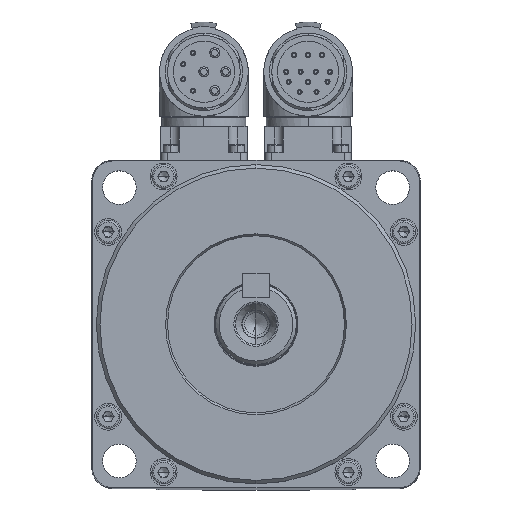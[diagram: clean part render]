
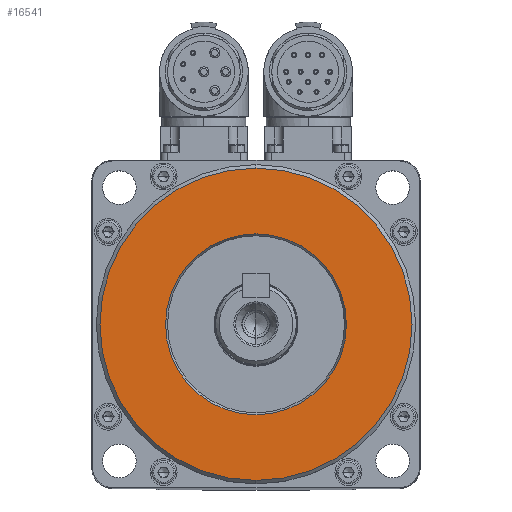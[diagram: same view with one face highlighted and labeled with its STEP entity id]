
A CAD part, top view. The second image highlights one B-rep face of the part: STEP entity #16541.
In plain terms, the highlighted planar face has unit normal (0, 0, 1).
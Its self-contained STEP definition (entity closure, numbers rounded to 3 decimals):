
#839 = CARTESIAN_POINT ( 'NONE',  ( 0., 46.433, 75.864 ) ) ;
#1338 = VERTEX_POINT ( 'NONE', #22055 ) ;
#4292 = DIRECTION ( 'NONE',  ( 0., 0., 1. ) ) ;
#6404 = ORIENTED_EDGE ( 'NONE', *, *, #47784, .T. ) ;
#11301 = CARTESIAN_POINT ( 'NONE',  ( 0., 0., 75.864 ) ) ;
#11336 = CIRCLE ( 'NONE', #54585, 46.433 ) ;
#12138 = EDGE_LOOP ( 'NONE', ( #20036, #35219 ) ) ;
#14655 = CARTESIAN_POINT ( 'NONE',  ( 0., 0., 75.864 ) ) ;
#16180 = CARTESIAN_POINT ( 'NONE',  ( 0., 26.908, 75.864 ) ) ;
#16541 = ADVANCED_FACE ( 'NONE', ( #50809, #28164 ), #23134, .F. ) ;
#19092 = VERTEX_POINT ( 'NONE', #61255 ) ;
#20036 = ORIENTED_EDGE ( 'NONE', *, *, #35072, .T. ) ;
#22055 = CARTESIAN_POINT ( 'NONE',  ( 0., -46.433, 75.864 ) ) ;
#22803 = DIRECTION ( 'NONE',  ( 0., 1., 0. ) ) ;
#23134 = PLANE ( 'NONE',  #38397 ) ;
#26136 = CIRCLE ( 'NONE', #60246, 26.908 ) ;
#28164 = FACE_BOUND ( 'NONE', #12138, .T. ) ;
#28202 = DIRECTION ( 'NONE',  ( 0., 1., 0. ) ) ;
#28419 = DIRECTION ( 'NONE',  ( 0., 0., -1. ) ) ;
#29886 = EDGE_CURVE ( 'NONE', #47277, #19092, #56412, .T. ) ;
#31479 = DIRECTION ( 'NONE',  ( 0., 1., 0. ) ) ;
#32487 = DIRECTION ( 'NONE',  ( 0., 0., 1. ) ) ;
#33291 = DIRECTION ( 'NONE',  ( 0., 1., 0. ) ) ;
#35072 = EDGE_CURVE ( 'NONE', #19092, #47277, #26136, .T. ) ;
#35219 = ORIENTED_EDGE ( 'NONE', *, *, #29886, .T. ) ;
#38397 = AXIS2_PLACEMENT_3D ( 'NONE', #48255, #28419, #28202 ) ;
#42340 = VERTEX_POINT ( 'NONE', #839 ) ;
#45259 = AXIS2_PLACEMENT_3D ( 'NONE', #62288, #32487, #22803 ) ;
#46380 = DIRECTION ( 'NONE',  ( 0., 0., -1. ) ) ;
#47277 = VERTEX_POINT ( 'NONE', #16180 ) ;
#47784 = EDGE_CURVE ( 'NONE', #42340, #1338, #59380, .T. ) ;
#48255 = CARTESIAN_POINT ( 'NONE',  ( 0., 0., 75.864 ) ) ;
#50809 = FACE_OUTER_BOUND ( 'NONE', #55989, .T. ) ;
#51905 = DIRECTION ( 'NONE',  ( 0., 0., -1. ) ) ;
#53587 = ORIENTED_EDGE ( 'NONE', *, *, #59478, .T. ) ;
#54585 = AXIS2_PLACEMENT_3D ( 'NONE', #14655, #4292, #63802 ) ;
#55989 = EDGE_LOOP ( 'NONE', ( #6404, #53587 ) ) ;
#56412 = CIRCLE ( 'NONE', #58736, 26.908 ) ;
#58736 = AXIS2_PLACEMENT_3D ( 'NONE', #11301, #46380, #33291 ) ;
#59380 = CIRCLE ( 'NONE', #45259, 46.433 ) ;
#59478 = EDGE_CURVE ( 'NONE', #1338, #42340, #11336, .T. ) ;
#60246 = AXIS2_PLACEMENT_3D ( 'NONE', #61691, #51905, #31479 ) ;
#61255 = CARTESIAN_POINT ( 'NONE',  ( 0., -26.908, 75.864 ) ) ;
#61691 = CARTESIAN_POINT ( 'NONE',  ( 0., 0., 75.864 ) ) ;
#62288 = CARTESIAN_POINT ( 'NONE',  ( 0., 0., 75.864 ) ) ;
#63802 = DIRECTION ( 'NONE',  ( 0., 1., 0. ) ) ;
